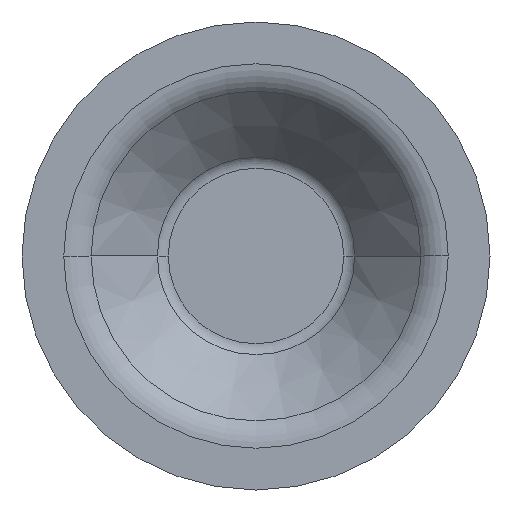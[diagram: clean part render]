
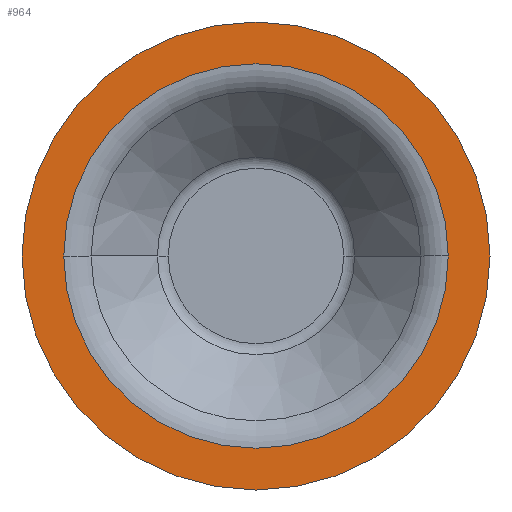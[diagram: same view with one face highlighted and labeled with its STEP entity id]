
A CAD part, front view. The second image highlights one B-rep face of the part: STEP entity #964.
In plain terms, the highlighted planar face has unit normal (0, -1, 0).
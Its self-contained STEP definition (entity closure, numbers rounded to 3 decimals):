
#56 = VERTEX_POINT ( 'NONE', #1565 ) ;
#71 = CIRCLE ( 'NONE', #416, 31.5 ) ;
#147 = CIRCLE ( 'NONE', #178, 25.88 ) ;
#178 = AXIS2_PLACEMENT_3D ( 'NONE', #1380, #1624, #1117 ) ;
#188 = ORIENTED_EDGE ( 'NONE', *, *, #1618, .T. ) ;
#194 = CIRCLE ( 'NONE', #1249, 25.88 ) ;
#208 = DIRECTION ( 'NONE',  ( 0., -1., 0. ) ) ;
#241 = DIRECTION ( 'NONE',  ( 0., -1., 0. ) ) ;
#258 = EDGE_LOOP ( 'NONE', ( #819, #188 ) ) ;
#267 = CARTESIAN_POINT ( 'NONE',  ( 0., -15., 0. ) ) ;
#354 = VERTEX_POINT ( 'NONE', #1599 ) ;
#413 = AXIS2_PLACEMENT_3D ( 'NONE', #1510, #637, #1007 ) ;
#416 = AXIS2_PLACEMENT_3D ( 'NONE', #267, #1009, #1523 ) ;
#428 = CARTESIAN_POINT ( 'NONE',  ( 31.5, -15., 0. ) ) ;
#479 = ORIENTED_EDGE ( 'NONE', *, *, #1186, .F. ) ;
#575 = EDGE_CURVE ( 'NONE', #953, #1247, #698, .T. ) ;
#578 = FACE_BOUND ( 'NONE', #1637, .T. ) ;
#637 = DIRECTION ( 'NONE',  ( 0., -1., 0. ) ) ;
#666 = ORIENTED_EDGE ( 'NONE', *, *, #747, .F. ) ;
#698 = CIRCLE ( 'NONE', #413, 31.5 ) ;
#747 = EDGE_CURVE ( 'NONE', #354, #56, #147, .T. ) ;
#819 = ORIENTED_EDGE ( 'NONE', *, *, #575, .T. ) ;
#953 = VERTEX_POINT ( 'NONE', #1179 ) ;
#964 = ADVANCED_FACE ( 'NONE', ( #578, #1059 ), #1567, .T. ) ;
#1007 = DIRECTION ( 'NONE',  ( 1., 0., 0. ) ) ;
#1009 = DIRECTION ( 'NONE',  ( 0., -1., 0. ) ) ;
#1059 = FACE_OUTER_BOUND ( 'NONE', #258, .T. ) ;
#1117 = DIRECTION ( 'NONE',  ( -1., 0., 0. ) ) ;
#1179 = CARTESIAN_POINT ( 'NONE',  ( 31.5, -15., 0. ) ) ;
#1186 = EDGE_CURVE ( 'NONE', #56, #354, #194, .T. ) ;
#1247 = VERTEX_POINT ( 'NONE', #1431 ) ;
#1249 = AXIS2_PLACEMENT_3D ( 'NONE', #1350, #241, #1357 ) ;
#1350 = CARTESIAN_POINT ( 'NONE',  ( 0., -15., 0. ) ) ;
#1357 = DIRECTION ( 'NONE',  ( -1., 0., 0. ) ) ;
#1373 = AXIS2_PLACEMENT_3D ( 'NONE', #428, #208, #1556 ) ;
#1380 = CARTESIAN_POINT ( 'NONE',  ( 0., -15., 0. ) ) ;
#1431 = CARTESIAN_POINT ( 'NONE',  ( -31.5, -15., 0. ) ) ;
#1510 = CARTESIAN_POINT ( 'NONE',  ( 0., -15., 0. ) ) ;
#1523 = DIRECTION ( 'NONE',  ( 1., 0., 0. ) ) ;
#1556 = DIRECTION ( 'NONE',  ( 1., 0., 0. ) ) ;
#1565 = CARTESIAN_POINT ( 'NONE',  ( 25.88, -15., 0. ) ) ;
#1567 = PLANE ( 'NONE',  #1373 ) ;
#1599 = CARTESIAN_POINT ( 'NONE',  ( -25.88, -15., 0. ) ) ;
#1618 = EDGE_CURVE ( 'NONE', #1247, #953, #71, .T. ) ;
#1624 = DIRECTION ( 'NONE',  ( 0., -1., 0. ) ) ;
#1637 = EDGE_LOOP ( 'NONE', ( #666, #479 ) ) ;
